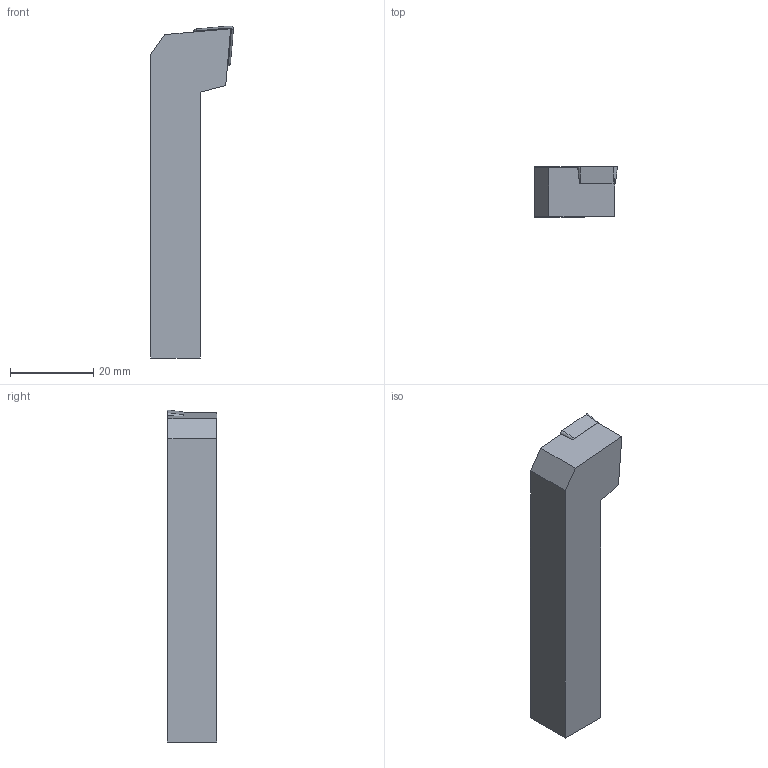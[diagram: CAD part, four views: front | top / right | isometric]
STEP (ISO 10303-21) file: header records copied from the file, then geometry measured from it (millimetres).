
FILE_DESCRIPTION(/* description */ (''),/* implementation_level */ '2;1');
FILE_NAME(/* name */ 'SCLCR1212-F09-HAAS-.stp',/* time_stamp */ '2021-09-28T12:09:30+09:00',/* author */ (''),/* organization */ (''),/* preprocessor_version */ 'ST-DEVELOPER v11',/* originating_system */ 'SIEMENS UGS NX 6.0',/* authorisation */ '');
FILE_SCHEMA (('CONFIG_CONTROL_DESIGN'));
Length unit declared in the file: millimetre
Products named in the file (1): user19614c20
Bounding box: 19.96 x 12 x 79.96 mm (x, y, z)
Volume: 12500 mm3; surface area: 4663.2 mm2
Topology: 2 solids, 2 shells, 22 faces, 54 edges, 36 vertices
Faces by surface type: plane 17, cone 4, cylinder 1
Full cylindrical faces by diameter (mm): 4.4 x1
Entity records: 722 total; most frequent: CARTESIAN_POINT 110, DIRECTION 108, ORIENTED_EDGE 104, EDGE_CURVE 52, LINE 42, VECTOR 42, VERTEX_POINT 35, AXIS2_PLACEMENT_3D 33
